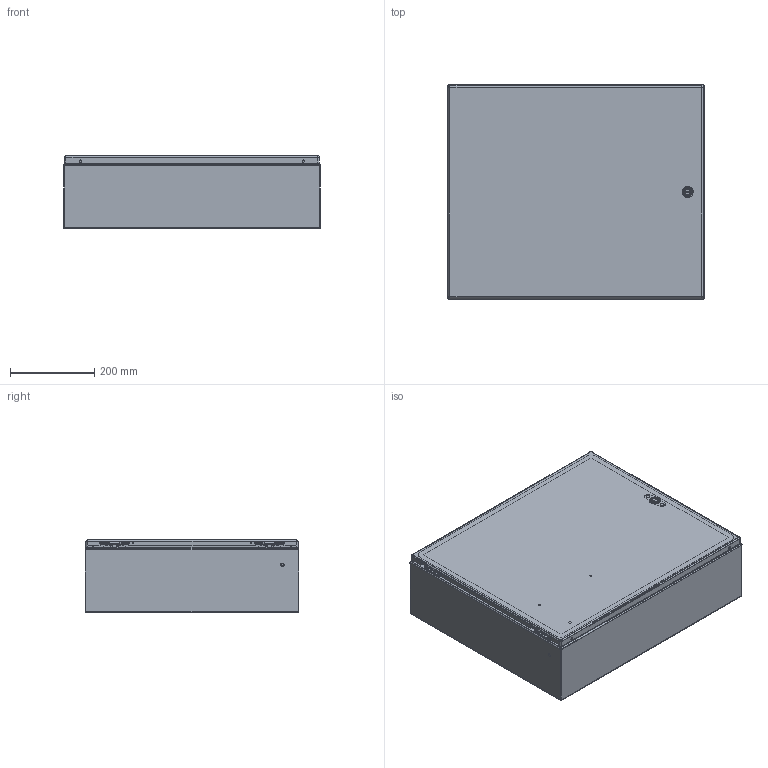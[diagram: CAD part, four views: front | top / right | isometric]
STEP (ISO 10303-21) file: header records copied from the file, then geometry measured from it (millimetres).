
FILE_DESCRIPTION (( 'STEP AP203' ), '1' );
FILE_NAME ('29396.step', '2015-03-30T06:07:16', ( '' ), ( '' ), 'SwSTEP 2.0', 'SolidWorks 2010', '' );
FILE_SCHEMA (( 'CONFIG_CONTROL_DESIGN' ));
Length unit declared in the file: inch
Products named in the file (24): 29396; 89116796; 89116795_default; 23271001_After Weld; 87937927_assy; 87937967_weldment; 87936128; 99401225; 87931362_87931362; 64101001; 64201001; 87541994_Installed Height; 87541995; 64202001; 64210001; 64203001; 87938001; 87543027; 89076399; 89076193; 89056623; 87929507; 87929767; 87929769_Installed on Pin
Assembly tree (31 placements, depth 4):
  29396
    87543027  x2
    87937927_assy
      87937967_weldment
        87931362_87931362  x2
        99401225
        87936128
      87938001
      64101001
        64203001
        64210001
        64202001
        87541995
        87541994_Installed Height
        64201001
    87929507  x2
      87929769_Installed on Pin
      87929767
    89076399  x2
      89056623
      89076193
    89116796
      99401225
      89116795_default
      23271001_After Weld  x4
Bounding box: 609.6 x 508 x 173.1 mm (x, y, z)
Volume: 1481459.5 mm3; surface area: 2225469.2 mm2
Topology: 28 solids, 28 shells, 1274 faces, 3091 edges, 1890 vertices
Faces by surface type: plane 531, cylinder 441, bspline 144, torus 96, cone 54, sphere 8
Entity records: 33987 total; most frequent: CARTESIAN_POINT 9940, ORIENTED_EDGE 4520, DIRECTION 4286, EDGE_CURVE 2260, AXIS2_PLACEMENT_3D 1528, VERTEX_POINT 1392, LINE 1230, VECTOR 1230
